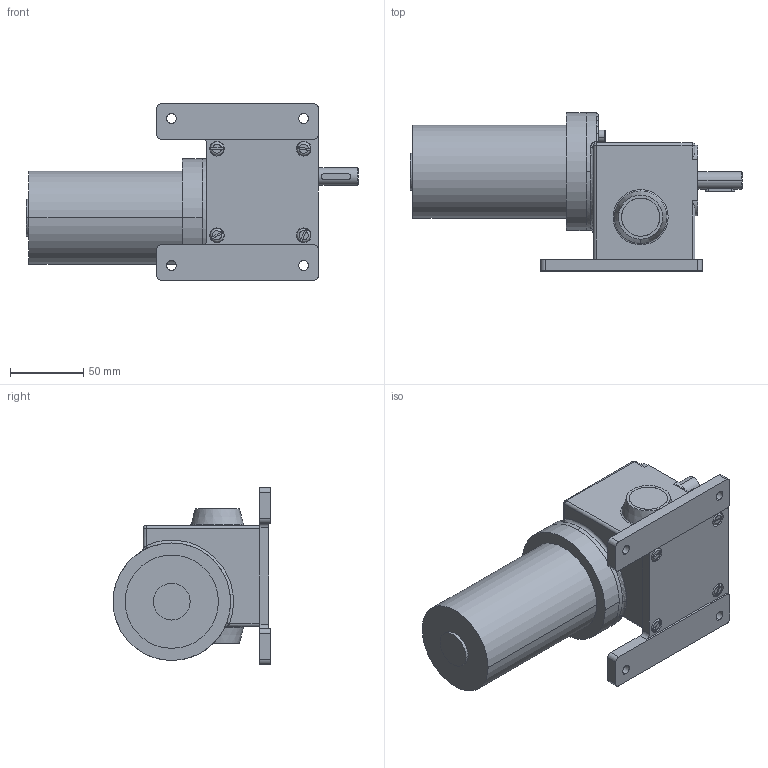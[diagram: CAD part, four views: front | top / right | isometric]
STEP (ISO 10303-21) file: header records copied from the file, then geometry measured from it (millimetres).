
FILE_DESCRIPTION (( 'STEP AP214' ), '1' );
FILE_NAME ('GP-SN4_57W_3000Upm.STEP', '2021-12-08T15:09:03', ( '' ), ( '' ), 'SwSTEP 2.0', 'SolidWorks 2019', '' );
FILE_SCHEMA (( 'AUTOMOTIVE_DESIGN' ));
Length unit declared in the file: millimetre
Products named in the file (14): socket set screw flat point_din_DIN 913 - M5 x 25-C; socket head cap screw_din_DIN 912 M5 x 16 --- 16C; NBR_WDR_12x37x10; SN4_3D_Export; hex bolt gradeab_din_DIN EN 24014 - M5 x 25 x 25-C; 04B-W-003_3D_Export; slotted pan head screw_din_DIN EN ISO 1580 - M5 x 12 - 12C; K_26x6,5; GP-SN4_57W_3000Upm; 05-M-062 I 57W_3000Upm; hex nut style 1 gradeab_din_Hexagon Nut ISO 4032 - M6 - D - C; 04-G-006_3D_Export; PF_A4x4x20; 04-D-003
Assembly tree (17 placements, depth 3):
  GP-SN4_57W_3000Upm
    SN4_3D_Export
      04-G-006_3D_Export
      04B-W-003_3D_Export
      04-D-003
      K_26x6,5
      NBR_WDR_12x37x10
      PF_A4x4x20
      socket head cap screw_din_DIN 912 M5 x 16 --- 16C  x2
      hex bolt gradeab_din_DIN EN 24014 - M5 x 25 x 25-C
      socket set screw flat point_din_DIN 913 - M5 x 25-C
      hex nut style 1 gradeab_din_Hexagon Nut ISO 4032 - M6 - D - C
      slotted pan head screw_din_DIN EN ISO 1580 - M5 x 12 - 12C  x4
    05-M-062 I 57W_3000Upm
Bounding box: 226 x 107.5 x 120 mm (x, y, z)
Volume: 898977.5 mm3; surface area: 118587.5 mm2
Topology: 16 solids, 17 shells, 444 faces, 999 edges, 598 vertices
Faces by surface type: cylinder 162, plane 157, cone 86, torus 28, bspline 8, sphere 3
Entity records: 11863 total; most frequent: CARTESIAN_POINT 2446, DIRECTION 1949, ORIENTED_EDGE 1652, EDGE_CURVE 826, AXIS2_PLACEMENT_3D 794, VERTEX_POINT 511, EDGE_LOOP 443, CIRCLE 403
